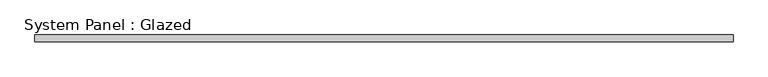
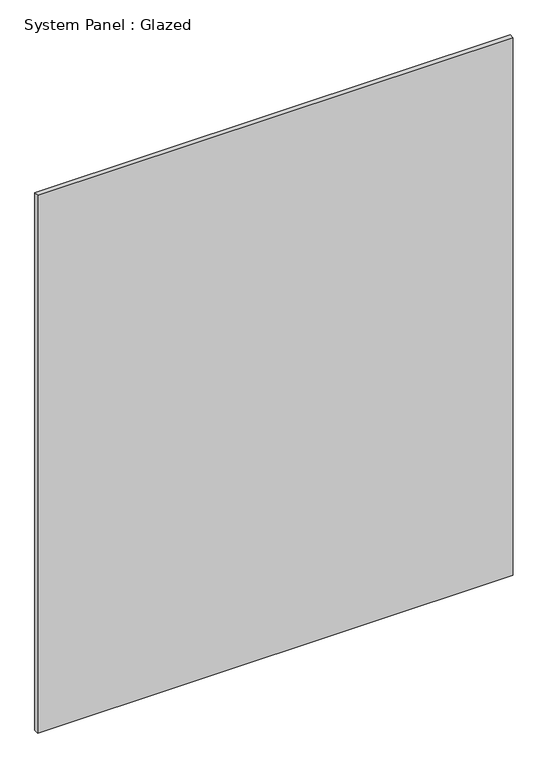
"""IFC4 building model written with IfcOpenShell, lengths in millimetres: plate geometry, System Panel : Glazed."""

from ifc_helpers import new_model, si_unit, origin, origin_with_axes, place, context, project, spatial, polyline, outline, extrude, source, transform, mapped, element, save


def system_panel_glazed_6a293f1c(model_context):
    return source(origin(), model_context, "Body", "SweptSolid", [
        extrude(outline(polyline([(1307.5, 24.5), (-1307.5, 24.5), (-1307.5, 49.5), (1307.5, 49.5), (1307.5, 24.5)])), origin_with_axes(), (0.0, 0.0, 1.0), 3125.0),
    ])


if __name__ == "__main__":
    model = new_model("IFC4")
    model_context = context("Model", 3, world=origin())
    ifc_project = project(units=[si_unit("LENGTHUNIT", "METRE", prefix="MILLI")], contexts=[model_context])
    site = spatial("IfcSite", under=ifc_project)
    building = spatial("IfcBuilding", under=site)
    placement = place(None, origin())
    system_panel_glazed_shape = system_panel_glazed_6a293f1c(model_context)
    element("IfcPlate", 1, ObjectType="System Panel : Glazed", at=placement, inside=building, context=model_context, shape_type="MappedRepresentation", body=[
        mapped(system_panel_glazed_shape, transform((0.0, 0.0, 0.0), x_axis=(1.0, 0.0, 0.0), y_axis=(0.0, 1.0, 0.0), z_axis=(0.0, 0.0, 1.0))),
    ])
    save(model, "model.ifc")
